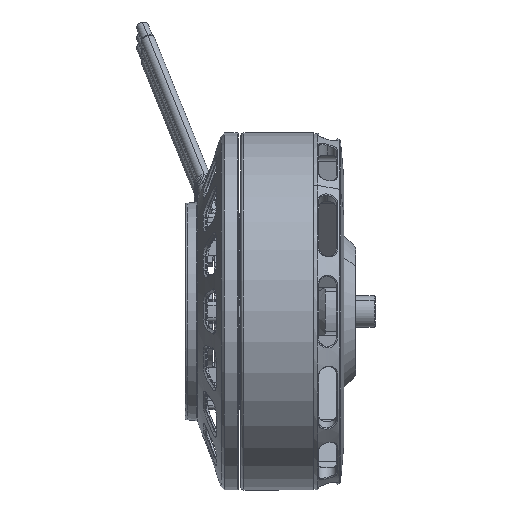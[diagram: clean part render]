
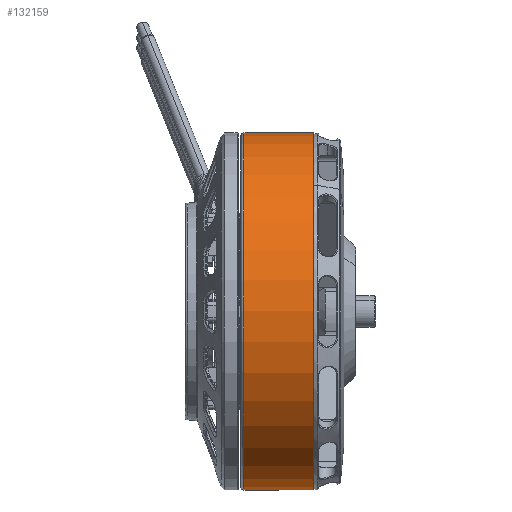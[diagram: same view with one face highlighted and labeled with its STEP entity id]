
A CAD part, left-side view. The second image highlights one B-rep face of the part: STEP entity #132159.
In plain terms, the highlighted cylindrical face has radius 44.55 mm (diameter 89.1 mm), a partial arc.
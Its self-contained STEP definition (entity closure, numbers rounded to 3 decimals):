
#1423 = CARTESIAN_POINT ( 'NONE',  ( 0., 14.35, 44.55 ) ) ;
#5408 = EDGE_CURVE ( 'NONE', #44696, #81138, #85217, .T. ) ;
#9792 = CARTESIAN_POINT ( 'NONE',  ( 0., -3.05, 44.55 ) ) ;
#12237 = AXIS2_PLACEMENT_3D ( 'NONE', #119132, #64937, #75674 ) ;
#13270 = DIRECTION ( 'NONE',  ( 0., 1., 0. ) ) ;
#16499 = ORIENTED_EDGE ( 'NONE', *, *, #76477, .T. ) ;
#19922 = ORIENTED_EDGE ( 'NONE', *, *, #77762, .F. ) ;
#19939 = VECTOR ( 'NONE', #59824, 1000. ) ;
#21722 = AXIS2_PLACEMENT_3D ( 'NONE', #118007, #95927, #140102 ) ;
#25156 = EDGE_CURVE ( 'NONE', #49620, #132719, #33016, .T. ) ;
#28574 = ORIENTED_EDGE ( 'NONE', *, *, #25156, .T. ) ;
#32232 = LINE ( 'NONE', #107863, #90406 ) ;
#33016 = CIRCLE ( 'NONE', #21722, 44.55 ) ;
#44696 = VERTEX_POINT ( 'NONE', #71491 ) ;
#46758 = FACE_OUTER_BOUND ( 'NONE', #73509, .T. ) ;
#49620 = VERTEX_POINT ( 'NONE', #114356 ) ;
#51924 = LINE ( 'NONE', #94073, #19939 ) ;
#54358 = DIRECTION ( 'NONE',  ( 0., 1., 0. ) ) ;
#59824 = DIRECTION ( 'NONE',  ( 0., 1., 0. ) ) ;
#64937 = DIRECTION ( 'NONE',  ( 0., 1., 0. ) ) ;
#68209 = CARTESIAN_POINT ( 'NONE',  ( 0., 119.673, 0. ) ) ;
#71491 = CARTESIAN_POINT ( 'NONE',  ( 0., 14.35, -44.55 ) ) ;
#73509 = EDGE_LOOP ( 'NONE', ( #28574, #16499, #117601, #19922 ) ) ;
#75674 = DIRECTION ( 'NONE',  ( 0., 0., -1. ) ) ;
#76477 = EDGE_CURVE ( 'NONE', #132719, #81138, #32232, .T. ) ;
#77762 = EDGE_CURVE ( 'NONE', #49620, #44696, #51924, .T. ) ;
#81138 = VERTEX_POINT ( 'NONE', #1423 ) ;
#85217 = CIRCLE ( 'NONE', #12237, 44.55 ) ;
#90406 = VECTOR ( 'NONE', #54358, 1000. ) ;
#94073 = CARTESIAN_POINT ( 'NONE',  ( 0., 119.673, -44.55 ) ) ;
#95927 = DIRECTION ( 'NONE',  ( 0., 1., 0. ) ) ;
#98904 = CYLINDRICAL_SURFACE ( 'NONE', #110729, 44.55 ) ;
#107863 = CARTESIAN_POINT ( 'NONE',  ( 0., 119.673, 44.55 ) ) ;
#110729 = AXIS2_PLACEMENT_3D ( 'NONE', #68209, #13270, #132418 ) ;
#114356 = CARTESIAN_POINT ( 'NONE',  ( 0., -3.05, -44.55 ) ) ;
#117601 = ORIENTED_EDGE ( 'NONE', *, *, #5408, .F. ) ;
#118007 = CARTESIAN_POINT ( 'NONE',  ( 0., -3.05, 0. ) ) ;
#119132 = CARTESIAN_POINT ( 'NONE',  ( 0., 14.35, 0. ) ) ;
#132159 = ADVANCED_FACE ( 'NONE', ( #46758 ), #98904, .T. ) ;
#132418 = DIRECTION ( 'NONE',  ( 0., 0., -1. ) ) ;
#132719 = VERTEX_POINT ( 'NONE', #9792 ) ;
#140102 = DIRECTION ( 'NONE',  ( 0., 0., -1. ) ) ;
